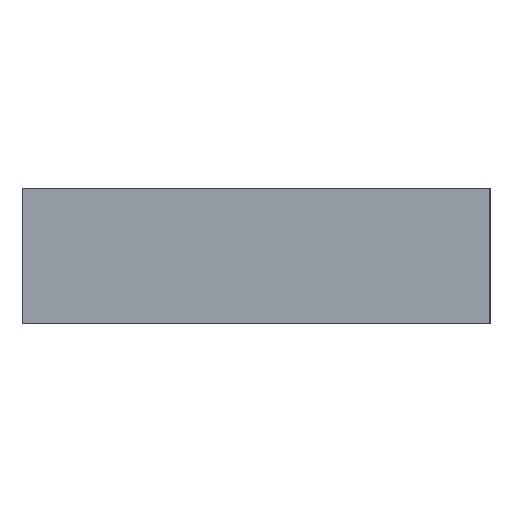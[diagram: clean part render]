
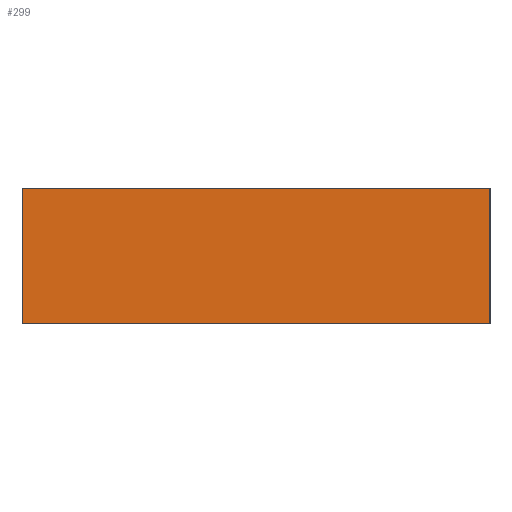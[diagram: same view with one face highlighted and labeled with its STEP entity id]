
A CAD part, front view. The second image highlights one B-rep face of the part: STEP entity #299.
In plain terms, the highlighted planar face has unit normal (0, -1, 0).
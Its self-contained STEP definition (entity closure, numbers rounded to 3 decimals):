
#140 = ORIENTED_EDGE ( 'NONE', *, *, #855, .T. ) ;
#142 = VECTOR ( 'NONE', #1709, 1000. ) ;
#229 = DIRECTION ( 'NONE',  ( -1., 0., 0. ) ) ;
#244 = AXIS2_PLACEMENT_3D ( 'NONE', #1843, #917, #3009 ) ;
#299 = ADVANCED_FACE ( 'NONE', ( #1581 ), #452, .T. ) ;
#348 = VERTEX_POINT ( 'NONE', #2528 ) ;
#452 = PLANE ( 'NONE',  #244 ) ;
#494 = CARTESIAN_POINT ( 'NONE',  ( 34.576, 0., 10. ) ) ;
#560 = VECTOR ( 'NONE', #2344, 1000. ) ;
#818 = VERTEX_POINT ( 'NONE', #494 ) ;
#849 = EDGE_CURVE ( 'NONE', #1531, #1909, #1659, .T. ) ;
#855 = EDGE_CURVE ( 'NONE', #818, #348, #944, .T. ) ;
#909 = VECTOR ( 'NONE', #229, 1000. ) ;
#917 = DIRECTION ( 'NONE',  ( 0., -1., 0. ) ) ;
#944 = LINE ( 'NONE', #1231, #560 ) ;
#1000 = VECTOR ( 'NONE', #2822, 1000. ) ;
#1019 = LINE ( 'NONE', #1958, #1000 ) ;
#1231 = CARTESIAN_POINT ( 'NONE',  ( 0., 0., 10. ) ) ;
#1357 = EDGE_CURVE ( 'NONE', #818, #1531, #2600, .T. ) ;
#1441 = CARTESIAN_POINT ( 'NONE',  ( 0., 0., 0. ) ) ;
#1531 = VERTEX_POINT ( 'NONE', #2109 ) ;
#1560 = ORIENTED_EDGE ( 'NONE', *, *, #849, .F. ) ;
#1581 = FACE_OUTER_BOUND ( 'NONE', #1617, .T. ) ;
#1602 = EDGE_CURVE ( 'NONE', #348, #1909, #1019, .T. ) ;
#1617 = EDGE_LOOP ( 'NONE', ( #1560, #1914, #140, #2993 ) ) ;
#1659 = LINE ( 'NONE', #1441, #909 ) ;
#1709 = DIRECTION ( 'NONE',  ( 0., 0., -1. ) ) ;
#1723 = CARTESIAN_POINT ( 'NONE',  ( 34.576, 0., 10. ) ) ;
#1843 = CARTESIAN_POINT ( 'NONE',  ( 0., 0., 10. ) ) ;
#1858 = CARTESIAN_POINT ( 'NONE',  ( 0., 0., 0. ) ) ;
#1909 = VERTEX_POINT ( 'NONE', #1858 ) ;
#1914 = ORIENTED_EDGE ( 'NONE', *, *, #1357, .F. ) ;
#1958 = CARTESIAN_POINT ( 'NONE',  ( 0., 0., 10. ) ) ;
#2109 = CARTESIAN_POINT ( 'NONE',  ( 34.576, 0., 0. ) ) ;
#2344 = DIRECTION ( 'NONE',  ( -1., 0., 0. ) ) ;
#2528 = CARTESIAN_POINT ( 'NONE',  ( 0., 0., 10. ) ) ;
#2600 = LINE ( 'NONE', #1723, #142 ) ;
#2822 = DIRECTION ( 'NONE',  ( 0., 0., -1. ) ) ;
#2993 = ORIENTED_EDGE ( 'NONE', *, *, #1602, .T. ) ;
#3009 = DIRECTION ( 'NONE',  ( 0., 0., -1. ) ) ;
